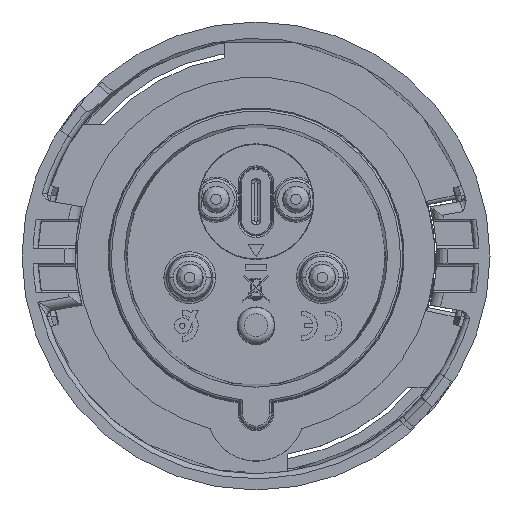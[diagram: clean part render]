
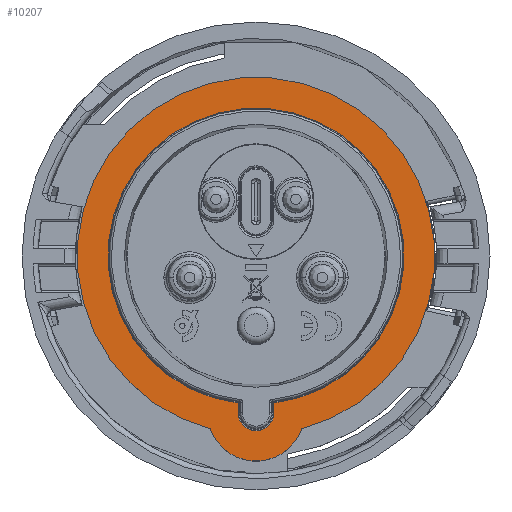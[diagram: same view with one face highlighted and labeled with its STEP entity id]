
A CAD part, top view. The second image highlights one B-rep face of the part: STEP entity #10207.
In plain terms, the highlighted planar face has unit normal (0, 0, 1).
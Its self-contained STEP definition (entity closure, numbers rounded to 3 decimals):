
#2829=FACE_BOUND('',#17927,.T.);
#2830=FACE_BOUND('',#17928,.T.);
#4318=PLANE('',#67967);
#7253=CIRCLE('',#67953,9.2);
#7254=CIRCLE('',#67956,3.4);
#7256=CIRCLE('',#67960,34.);
#7259=CIRCLE('',#67964,28.15);
#10207=ADVANCED_FACE('',(#2829,#2830),#4318,.T.);
#17927=EDGE_LOOP('',(#35063,#35064));
#17928=EDGE_LOOP('',(#35065,#35066,#35067,#35068));
#21288=LINE('',#129221,#24003);
#21291=LINE('',#129231,#24006);
#24003=VECTOR('',#77381,1.);
#24006=VECTOR('',#77392,1.);
#35063=ORIENTED_EDGE('',*,*,#55737,.T.);
#35064=ORIENTED_EDGE('',*,*,#55749,.T.);
#35065=ORIENTED_EDGE('',*,*,#55743,.F.);
#35066=ORIENTED_EDGE('',*,*,#55741,.F.);
#35067=ORIENTED_EDGE('',*,*,#55752,.F.);
#35068=ORIENTED_EDGE('',*,*,#55746,.F.);
#47896=VERTEX_POINT('',#129211);
#47897=VERTEX_POINT('',#129213);
#47900=VERTEX_POINT('',#129220);
#47901=VERTEX_POINT('',#129222);
#47902=VERTEX_POINT('',#129226);
#47904=VERTEX_POINT('',#129232);
#55737=EDGE_CURVE('',#47897,#47896,#7253,.T.);
#55741=EDGE_CURVE('',#47900,#47901,#21288,.T.);
#55743=EDGE_CURVE('',#47901,#47902,#7254,.T.);
#55746=EDGE_CURVE('',#47902,#47904,#21291,.T.);
#55749=EDGE_CURVE('',#47896,#47897,#7256,.T.);
#55752=EDGE_CURVE('',#47904,#47900,#7259,.T.);
#67953=AXIS2_PLACEMENT_3D('',#129212,#77374,#77375);
#67956=AXIS2_PLACEMENT_3D('',#129225,#77385,#77386);
#67960=AXIS2_PLACEMENT_3D('',#129237,#77397,#77398);
#67964=AXIS2_PLACEMENT_3D('',#129241,#77405,#77406);
#67967=AXIS2_PLACEMENT_3D('',#129244,#77411,#77412);
#77374=DIRECTION('',(0.,0.,1.));
#77375=DIRECTION('',(1.,0.,0.));
#77381=DIRECTION('',(0.,-1.,0.));
#77385=DIRECTION('',(0.,0.,1.));
#77386=DIRECTION('',(1.,0.,0.));
#77392=DIRECTION('',(0.,1.,0.));
#77397=DIRECTION('',(0.,0.,1.));
#77398=DIRECTION('',(1.,0.,0.));
#77405=DIRECTION('',(0.,0.,1.));
#77406=DIRECTION('',(1.,0.,0.));
#77411=DIRECTION('',(0.,0.,1.));
#77412=DIRECTION('',(-1.,0.,0.));
#129211=CARTESIAN_POINT('',(8.671,-32.876,6.5));
#129212=CARTESIAN_POINT('',(0.,-29.8,6.5));
#129213=CARTESIAN_POINT('',(-8.671,-32.876,6.5));
#129220=CARTESIAN_POINT('',(-3.4,-27.944,6.5));
#129221=CARTESIAN_POINT('',(-3.4,-27.944,6.5));
#129222=CARTESIAN_POINT('',(-3.4,-29.8,6.5));
#129225=CARTESIAN_POINT('',(0.,-29.8,6.5));
#129226=CARTESIAN_POINT('',(3.4,-29.8,6.5));
#129231=CARTESIAN_POINT('',(3.4,-29.8,6.5));
#129232=CARTESIAN_POINT('',(3.4,-27.944,6.5));
#129237=CARTESIAN_POINT('',(0.,0.,6.5));
#129241=CARTESIAN_POINT('',(0.,0.,6.5));
#129244=CARTESIAN_POINT('',(-40.8,-46.3,6.5));
